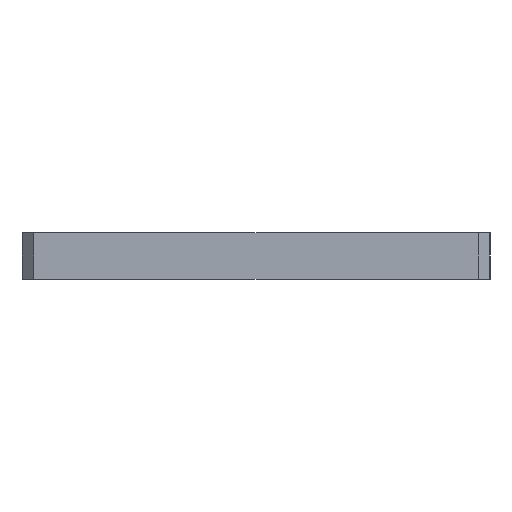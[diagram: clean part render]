
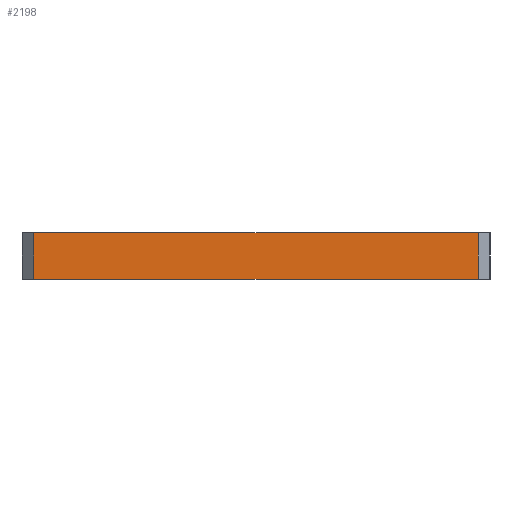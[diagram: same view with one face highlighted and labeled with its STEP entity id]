
A CAD part, left-side view. The second image highlights one B-rep face of the part: STEP entity #2198.
In plain terms, the highlighted planar face has unit normal (-1, 0, 0).
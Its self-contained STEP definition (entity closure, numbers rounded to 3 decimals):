
#15 = DIRECTION ( 'NONE',  ( 1., 0., 0. ) ) ;
#28 = EDGE_CURVE ( 'NONE', #1391, #324, #2419, .T. ) ;
#34 = CARTESIAN_POINT ( 'NONE',  ( 138.095, 1282.144, 0. ) ) ;
#79 = VERTEX_POINT ( 'NONE', #334 ) ;
#88 = CARTESIAN_POINT ( 'NONE',  ( 138.095, 1092.144, 0. ) ) ;
#177 = EDGE_LOOP ( 'NONE', ( #2294, #791, #371, #771 ) ) ;
#183 = CARTESIAN_POINT ( 'NONE',  ( 138.095, 1092.144, 20. ) ) ;
#191 = DIRECTION ( 'NONE',  ( 0., 0., -1. ) ) ;
#240 = VECTOR ( 'NONE', #1806, 1000. ) ;
#324 = VERTEX_POINT ( 'NONE', #777 ) ;
#334 = CARTESIAN_POINT ( 'NONE',  ( 138.095, 1282.144, 20. ) ) ;
#371 = ORIENTED_EDGE ( 'NONE', *, *, #756, .F. ) ;
#438 = PLANE ( 'NONE',  #1741 ) ;
#578 = CARTESIAN_POINT ( 'NONE',  ( 138.095, 1092.144, 20. ) ) ;
#743 = VECTOR ( 'NONE', #1189, 1000. ) ;
#756 = EDGE_CURVE ( 'NONE', #79, #1391, #2621, .T. ) ;
#771 = ORIENTED_EDGE ( 'NONE', *, *, #1797, .T. ) ;
#777 = CARTESIAN_POINT ( 'NONE',  ( 138.095, 1092.144, 0. ) ) ;
#791 = ORIENTED_EDGE ( 'NONE', *, *, #28, .F. ) ;
#1123 = EDGE_CURVE ( 'NONE', #2128, #324, #1492, .T. ) ;
#1189 = DIRECTION ( 'NONE',  ( 0., -1., 0. ) ) ;
#1230 = FACE_OUTER_BOUND ( 'NONE', #177, .T. ) ;
#1233 = LINE ( 'NONE', #2032, #2586 ) ;
#1309 = DIRECTION ( 'NONE',  ( 0., -1., 0. ) ) ;
#1391 = VERTEX_POINT ( 'NONE', #1422 ) ;
#1422 = CARTESIAN_POINT ( 'NONE',  ( 138.095, 1092.144, 20. ) ) ;
#1469 = CARTESIAN_POINT ( 'NONE',  ( 138.095, 1092.144, 20. ) ) ;
#1492 = LINE ( 'NONE', #88, #1590 ) ;
#1590 = VECTOR ( 'NONE', #1309, 1000. ) ;
#1741 = AXIS2_PLACEMENT_3D ( 'NONE', #1469, #15, #2315 ) ;
#1797 = EDGE_CURVE ( 'NONE', #79, #2128, #1233, .T. ) ;
#1806 = DIRECTION ( 'NONE',  ( 0., 0., -1. ) ) ;
#2032 = CARTESIAN_POINT ( 'NONE',  ( 138.095, 1282.144, 20. ) ) ;
#2128 = VERTEX_POINT ( 'NONE', #34 ) ;
#2198 = ADVANCED_FACE ( 'NONE', ( #1230 ), #438, .F. ) ;
#2294 = ORIENTED_EDGE ( 'NONE', *, *, #1123, .T. ) ;
#2315 = DIRECTION ( 'NONE',  ( 0., 0., -1. ) ) ;
#2419 = LINE ( 'NONE', #183, #240 ) ;
#2586 = VECTOR ( 'NONE', #191, 1000. ) ;
#2621 = LINE ( 'NONE', #578, #743 ) ;
